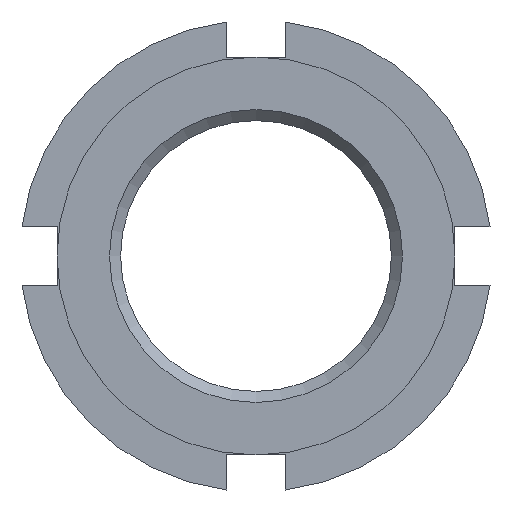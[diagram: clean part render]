
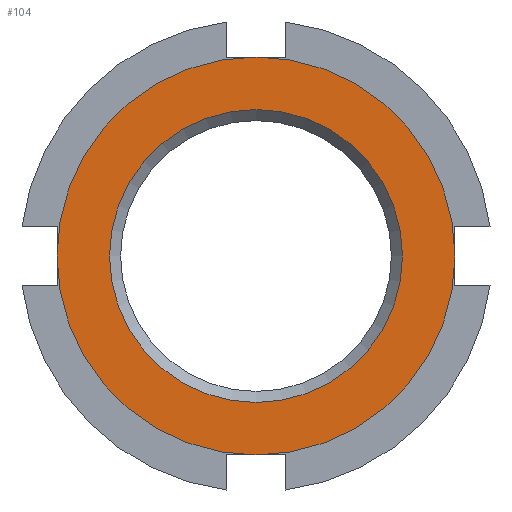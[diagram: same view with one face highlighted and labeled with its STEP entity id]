
A CAD part, left-side view. The second image highlights one B-rep face of the part: STEP entity #104.
In plain terms, the highlighted planar face has unit normal (-1, 0, 0).
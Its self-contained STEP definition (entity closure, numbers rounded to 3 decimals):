
#104 = ADVANCED_FACE( '', ( #177, #178 ), #179, .F. );
#177 = FACE_OUTER_BOUND( '', #255, .T. );
#178 = FACE_BOUND( '', #256, .T. );
#179 = PLANE( '', #257 );
#255 = EDGE_LOOP( '', ( #475 ) );
#256 = EDGE_LOOP( '', ( #476 ) );
#257 = AXIS2_PLACEMENT_3D( '', #477, #478, #479 );
#475 = ORIENTED_EDGE( '', *, *, #570, .F. );
#476 = ORIENTED_EDGE( '', *, *, #550, .T. );
#477 = CARTESIAN_POINT( '', ( 0., 0., 0. ) );
#478 = DIRECTION( '', ( 1., 0., 0. ) );
#479 = DIRECTION( '', ( 0., 0., -1. ) );
#550 = EDGE_CURVE( '', #656, #656, #657, .T. );
#570 = EDGE_CURVE( '', #684, #684, #685, .T. );
#656 = VERTEX_POINT( '', #829 );
#657 = CIRCLE( '', #830, 9.938 );
#684 = VERTEX_POINT( '', #865 );
#685 = CIRCLE( '', #866, 13.5 );
#829 = CARTESIAN_POINT( '', ( 0., 0., -9.938 ) );
#830 = AXIS2_PLACEMENT_3D( '', #947, #948, #949 );
#865 = CARTESIAN_POINT( '', ( 0., 0., -13.5 ) );
#866 = AXIS2_PLACEMENT_3D( '', #994, #995, #996 );
#947 = CARTESIAN_POINT( '', ( 0., 0., 0. ) );
#948 = DIRECTION( '', ( 1., 0., 0. ) );
#949 = DIRECTION( '', ( 0., 0., -1. ) );
#994 = CARTESIAN_POINT( '', ( 0., 0., 0. ) );
#995 = DIRECTION( '', ( 1., 0., 0. ) );
#996 = DIRECTION( '', ( 0., 0., -1. ) );
